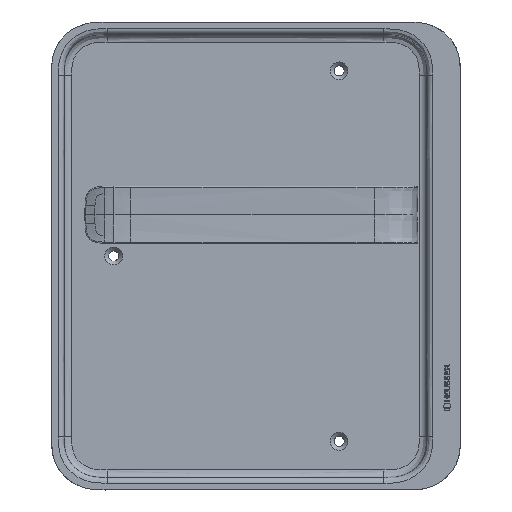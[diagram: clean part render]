
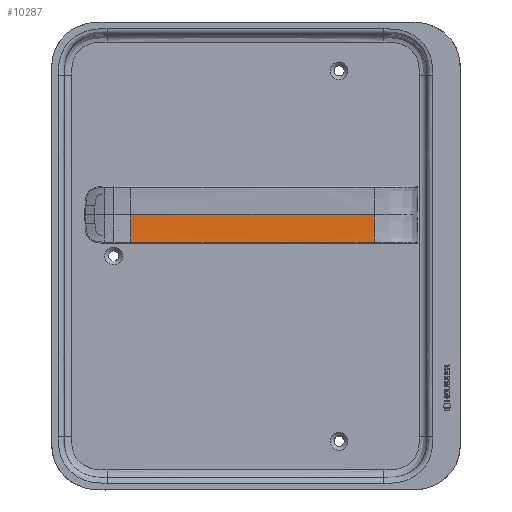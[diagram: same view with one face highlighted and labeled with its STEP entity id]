
A CAD part, top view. The second image highlights one B-rep face of the part: STEP entity #10287.
In plain terms, the highlighted free-form (B-spline) face has degree [5, 1] with [6, 2] control points.
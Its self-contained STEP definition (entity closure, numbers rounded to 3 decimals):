
#158=B_SPLINE_SURFACE_WITH_KNOTS('',5,1,((#20044,#20045),(#20046,#20047),
(#20048,#20049),(#20050,#20051),(#20052,#20053),(#20054,#20055)),
 .UNSPECIFIED.,.F.,.F.,.F.,(6,6),(2,2),(0.,1.),(0.,1.),.UNSPECIFIED.);
#541=B_SPLINE_CURVE_WITH_KNOTS('',5,(#19819,#19820,#19821,#19822,#19823,
#19824),.UNSPECIFIED.,.F.,.F.,(6,6),(0.034,0.5),
 .UNSPECIFIED.);
#546=B_SPLINE_CURVE_WITH_KNOTS('',5,(#20058,#20059,#20060,#20061,#20062,
#20063),.UNSPECIFIED.,.F.,.F.,(6,6),(0.034,0.5),
 .UNSPECIFIED.);
#547=B_SPLINE_CURVE_WITH_KNOTS('',3,(#20065,#20066,#20067,#20068,#20069,
#20070,#20071,#20072,#20073,#20074,#20075,#20076,#20077),.UNSPECIFIED.,
 .F.,.F.,(4,3,3,3,4),(3.187,11.154,11.571,
11.951,12.747),.UNSPECIFIED.);
#548=B_SPLINE_CURVE_WITH_KNOTS('',3,(#20078,#20079,#20080,#20081,#20082,
#20083,#20084,#20085,#20086,#20087,#20088,#20089,#20090,#20091,#20092,#20093,
#20094,#20095,#20096),.UNSPECIFIED.,.F.,.F.,(4,3,3,3,3,3,4),(0.,0.398,
0.558,0.796,0.914,1.195,
3.187),.UNSPECIFIED.);
#1289=LINE('',#20097,#2092);
#2092=VECTOR('',#11961,10.);
#2800=FACE_OUTER_BOUND('',#3429,.T.);
#3429=EDGE_LOOP('',(#7626,#7627,#7628,#7629,#7630));
#4342=VERTEX_POINT('',#19817);
#4343=VERTEX_POINT('',#19818);
#4348=VERTEX_POINT('',#20056);
#4349=VERTEX_POINT('',#20057);
#4350=VERTEX_POINT('',#20064);
#5522=EDGE_CURVE('',#4342,#4343,#541,.T.);
#5529=EDGE_CURVE('',#4348,#4349,#546,.T.);
#5530=EDGE_CURVE('',#4350,#4348,#547,.T.);
#5531=EDGE_CURVE('',#4342,#4350,#548,.T.);
#5532=EDGE_CURVE('',#4349,#4343,#1289,.T.);
#7626=ORIENTED_EDGE('',*,*,#5529,.F.);
#7627=ORIENTED_EDGE('',*,*,#5530,.F.);
#7628=ORIENTED_EDGE('',*,*,#5531,.F.);
#7629=ORIENTED_EDGE('',*,*,#5522,.T.);
#7630=ORIENTED_EDGE('',*,*,#5532,.F.);
#10287=ADVANCED_FACE('',(#2800),#158,.F.);
#11961=DIRECTION('',(1.,0.,-0.004));
#19817=CARTESIAN_POINT('',(59.658,5.7,38.446));
#19818=CARTESIAN_POINT('',(59.658,20.089,37.911));
#19819=CARTESIAN_POINT('Ctrl Pts',(59.658,5.7,38.446));
#19820=CARTESIAN_POINT('Ctrl Pts',(59.658,7.49,38.167));
#19821=CARTESIAN_POINT('Ctrl Pts',(59.658,9.99,38.023));
#19822=CARTESIAN_POINT('Ctrl Pts',(59.658,13.14,37.948));
#19823=CARTESIAN_POINT('Ctrl Pts',(59.658,16.615,37.911));
#19824=CARTESIAN_POINT('Ctrl Pts',(59.658,20.089,37.911));
#20044=CARTESIAN_POINT('Ctrl Pts',(59.658,35.089,38.554));
#20045=CARTESIAN_POINT('Ctrl Pts',(-67.815,35.089,39.101));
#20046=CARTESIAN_POINT('Ctrl Pts',(59.658,31.697,37.868));
#20047=CARTESIAN_POINT('Ctrl Pts',(-67.815,31.697,38.415));
#20048=CARTESIAN_POINT('Ctrl Pts',(59.658,24.989,37.868));
#20049=CARTESIAN_POINT('Ctrl Pts',(-67.815,24.989,38.415));
#20050=CARTESIAN_POINT('Ctrl Pts',(59.658,15.189,37.868));
#20051=CARTESIAN_POINT('Ctrl Pts',(-67.815,15.189,38.415));
#20052=CARTESIAN_POINT('Ctrl Pts',(59.658,8.482,37.868));
#20053=CARTESIAN_POINT('Ctrl Pts',(-67.815,8.482,38.415));
#20054=CARTESIAN_POINT('Ctrl Pts',(59.658,5.089,38.554));
#20055=CARTESIAN_POINT('Ctrl Pts',(-67.815,5.089,39.101));
#20056=CARTESIAN_POINT('',(-67.815,5.7,38.992));
#20057=CARTESIAN_POINT('',(-67.815,20.09,38.458));
#20058=CARTESIAN_POINT('Ctrl Pts',(-67.815,5.7,38.992));
#20059=CARTESIAN_POINT('Ctrl Pts',(-67.815,7.49,38.714));
#20060=CARTESIAN_POINT('Ctrl Pts',(-67.815,9.99,38.57));
#20061=CARTESIAN_POINT('Ctrl Pts',(-67.815,13.14,38.495));
#20062=CARTESIAN_POINT('Ctrl Pts',(-67.815,16.615,38.458));
#20063=CARTESIAN_POINT('Ctrl Pts',(-67.815,20.089,38.458));
#20064=CARTESIAN_POINT('',(27.791,5.7,38.582));
#20065=CARTESIAN_POINT('Ctrl Pts',(27.791,5.7,38.582));
#20066=CARTESIAN_POINT('Ctrl Pts',(1.233,5.7,38.696));
#20067=CARTESIAN_POINT('Ctrl Pts',(-25.324,5.7,38.81));
#20068=CARTESIAN_POINT('Ctrl Pts',(-51.882,5.7,38.924));
#20069=CARTESIAN_POINT('Ctrl Pts',(-53.26,5.7,38.93));
#20070=CARTESIAN_POINT('Ctrl Pts',(-54.638,5.7,38.936));
#20071=CARTESIAN_POINT('Ctrl Pts',(-56.016,5.7,38.942));
#20072=CARTESIAN_POINT('Ctrl Pts',(-57.293,5.7,38.947));
#20073=CARTESIAN_POINT('Ctrl Pts',(-58.571,5.7,38.953));
#20074=CARTESIAN_POINT('Ctrl Pts',(-59.848,5.7,38.958));
#20075=CARTESIAN_POINT('Ctrl Pts',(-62.504,5.7,38.97));
#20076=CARTESIAN_POINT('Ctrl Pts',(-65.159,5.7,38.981));
#20077=CARTESIAN_POINT('Ctrl Pts',(-67.815,5.7,38.992));
#20078=CARTESIAN_POINT('Ctrl Pts',(59.658,5.7,38.446));
#20079=CARTESIAN_POINT('Ctrl Pts',(58.33,5.7,38.451));
#20080=CARTESIAN_POINT('Ctrl Pts',(57.002,5.7,38.457));
#20081=CARTESIAN_POINT('Ctrl Pts',(55.674,5.7,38.463));
#20082=CARTESIAN_POINT('Ctrl Pts',(55.122,5.7,38.465));
#20083=CARTESIAN_POINT('Ctrl Pts',(54.57,5.7,38.468));
#20084=CARTESIAN_POINT('Ctrl Pts',(54.018,5.7,38.47));
#20085=CARTESIAN_POINT('Ctrl Pts',(53.243,5.7,38.473));
#20086=CARTESIAN_POINT('Ctrl Pts',(52.469,5.7,38.477));
#20087=CARTESIAN_POINT('Ctrl Pts',(51.695,5.7,38.48));
#20088=CARTESIAN_POINT('Ctrl Pts',(51.283,5.7,38.482));
#20089=CARTESIAN_POINT('Ctrl Pts',(50.87,5.7,38.483));
#20090=CARTESIAN_POINT('Ctrl Pts',(50.458,5.7,38.485));
#20091=CARTESIAN_POINT('Ctrl Pts',(49.542,5.7,38.489));
#20092=CARTESIAN_POINT('Ctrl Pts',(48.626,5.7,38.493));
#20093=CARTESIAN_POINT('Ctrl Pts',(47.71,5.7,38.497));
#20094=CARTESIAN_POINT('Ctrl Pts',(41.07,5.7,38.526));
#20095=CARTESIAN_POINT('Ctrl Pts',(34.43,5.701,38.554));
#20096=CARTESIAN_POINT('Ctrl Pts',(27.791,5.7,38.582));
#20097=CARTESIAN_POINT('',(-67.815,20.089,38.458));
